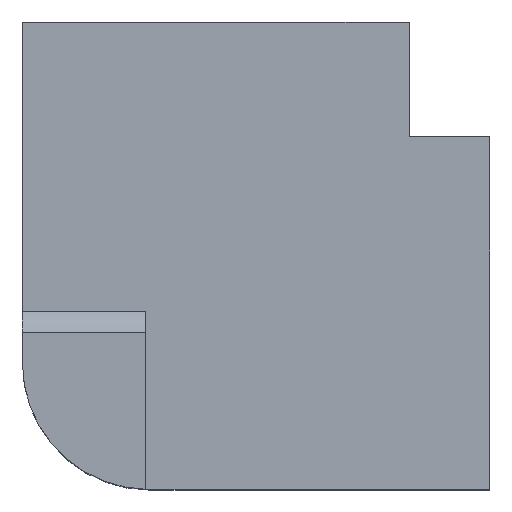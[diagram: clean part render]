
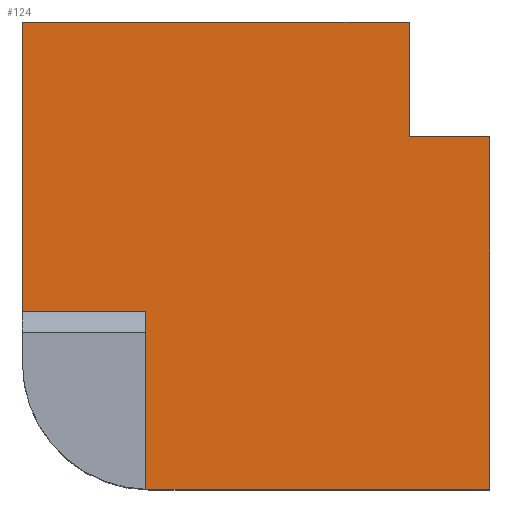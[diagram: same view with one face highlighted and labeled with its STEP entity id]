
A CAD part, top view. The second image highlights one B-rep face of the part: STEP entity #124.
In plain terms, the highlighted planar face has unit normal (0, 0, 1).
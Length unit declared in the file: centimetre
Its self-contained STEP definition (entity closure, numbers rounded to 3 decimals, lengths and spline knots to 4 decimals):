
#3 = ORIENTED_EDGE ( 'NONE', *, *, #318, .F. ) ;
#15 = DIRECTION ( 'NONE',  ( 0., -1., 0. ) ) ;
#18 = EDGE_CURVE ( 'NONE', #844, #63, #555, .T. ) ;
#21 = DIRECTION ( 'NONE',  ( 0., 1., 0. ) ) ;
#23 = EDGE_CURVE ( 'NONE', #63, #208, #550, .T. ) ;
#27 = CARTESIAN_POINT ( 'NONE',  ( 0., 381.245, 1000. ) ) ;
#63 = VERTEX_POINT ( 'NONE', #689 ) ;
#73 = VERTEX_POINT ( 'NONE', #846 ) ;
#76 = EDGE_CURVE ( 'NONE', #150, #641, #766, .T. ) ;
#81 = CARTESIAN_POINT ( 'NONE',  ( 0., 0., 1000. ) ) ;
#85 = ORIENTED_EDGE ( 'NONE', *, *, #76, .T. ) ;
#89 = EDGE_CURVE ( 'NONE', #641, #426, #761, .T. ) ;
#96 = LINE ( 'NONE', #388, #956 ) ;
#97 = DIRECTION ( 'NONE',  ( 0., 0., 1. ) ) ;
#101 = CARTESIAN_POINT ( 'NONE',  ( 1000., 1000., 1000. ) ) ;
#110 = CARTESIAN_POINT ( 'NONE',  ( 0., 0., 1000. ) ) ;
#117 = EDGE_CURVE ( 'NONE', #243, #150, #161, .T. ) ;
#122 = CARTESIAN_POINT ( 'NONE',  ( 827.7422, 754.0329, 1000. ) ) ;
#124 = ADVANCED_FACE ( 'NONE', ( #843 ), #175, .T. ) ;
#146 = VECTOR ( 'NONE', #723, 100. ) ;
#147 = CARTESIAN_POINT ( 'NONE',  ( 827.7422, 754.0329, 1000. ) ) ;
#148 = ORIENTED_EDGE ( 'NONE', *, *, #89, .T. ) ;
#150 = VERTEX_POINT ( 'NONE', #911 ) ;
#158 = DIRECTION ( 'NONE',  ( -1., 0., 0. ) ) ;
#161 = CIRCLE ( 'NONE', #430, 270.864 ) ;
#175 = PLANE ( 'NONE',  #930 ) ;
#179 = DIRECTION ( 'NONE',  ( 1., 0., 0. ) ) ;
#207 = CARTESIAN_POINT ( 'NONE',  ( 1000., 754.0329, 1000. ) ) ;
#208 = VERTEX_POINT ( 'NONE', #412 ) ;
#209 = VECTOR ( 'NONE', #179, 100. ) ;
#218 = CARTESIAN_POINT ( 'NONE',  ( 264.0625, 381.245, 1000. ) ) ;
#224 = CARTESIAN_POINT ( 'NONE',  ( 0., 1000., 1000. ) ) ;
#225 = ORIENTED_EDGE ( 'NONE', *, *, #576, .F. ) ;
#243 = VERTEX_POINT ( 'NONE', #650 ) ;
#246 = CARTESIAN_POINT ( 'NONE',  ( 0., 1000., 1000. ) ) ;
#277 = CARTESIAN_POINT ( 'NONE',  ( 1000., 0., 1000. ) ) ;
#311 = LINE ( 'NONE', #27, #660 ) ;
#312 = DIRECTION ( 'NONE',  ( 1., 0., 0. ) ) ;
#316 = VECTOR ( 'NONE', #510, 100. ) ;
#318 = EDGE_CURVE ( 'NONE', #844, #789, #96, .T. ) ;
#325 = DIRECTION ( 'NONE',  ( 1., 0., 0. ) ) ;
#388 = CARTESIAN_POINT ( 'NONE',  ( 827.7422, 754.0329, 1000. ) ) ;
#395 = DIRECTION ( 'NONE',  ( 0., 0., 1. ) ) ;
#412 = CARTESIAN_POINT ( 'NONE',  ( 0., 381.245, 1000. ) ) ;
#426 = VERTEX_POINT ( 'NONE', #207 ) ;
#430 = AXIS2_PLACEMENT_3D ( 'NONE', #738, #97, #312 ) ;
#434 = DIRECTION ( 'NONE',  ( 1., 0., 0. ) ) ;
#510 = DIRECTION ( 'NONE',  ( 0., -1., 0. ) ) ;
#541 = CARTESIAN_POINT ( 'NONE',  ( 827.7422, 1000., 1000. ) ) ;
#550 = LINE ( 'NONE', #224, #146 ) ;
#555 = LINE ( 'NONE', #246, #584 ) ;
#562 = EDGE_CURVE ( 'NONE', #73, #243, #591, .T. ) ;
#565 = VECTOR ( 'NONE', #21, 100. ) ;
#574 = VECTOR ( 'NONE', #434, 100. ) ;
#576 = EDGE_CURVE ( 'NONE', #789, #426, #808, .T. ) ;
#584 = VECTOR ( 'NONE', #158, 100. ) ;
#591 = LINE ( 'NONE', #218, #316 ) ;
#610 = ORIENTED_EDGE ( 'NONE', *, *, #562, .T. ) ;
#623 = EDGE_LOOP ( 'NONE', ( #3, #658, #670, #727, #610, #713, #85, #148, #225 ) ) ;
#641 = VERTEX_POINT ( 'NONE', #277 ) ;
#650 = CARTESIAN_POINT ( 'NONE',  ( 264.0625, 0.0854, 1000. ) ) ;
#658 = ORIENTED_EDGE ( 'NONE', *, *, #18, .T. ) ;
#660 = VECTOR ( 'NONE', #859, 100. ) ;
#670 = ORIENTED_EDGE ( 'NONE', *, *, #23, .T. ) ;
#689 = CARTESIAN_POINT ( 'NONE',  ( 0., 1000., 1000. ) ) ;
#713 = ORIENTED_EDGE ( 'NONE', *, *, #117, .T. ) ;
#723 = DIRECTION ( 'NONE',  ( 0., -1., 0. ) ) ;
#727 = ORIENTED_EDGE ( 'NONE', *, *, #799, .F. ) ;
#738 = CARTESIAN_POINT ( 'NONE',  ( 270.864, 270.864, 1000. ) ) ;
#761 = LINE ( 'NONE', #101, #565 ) ;
#766 = LINE ( 'NONE', #81, #209 ) ;
#789 = VERTEX_POINT ( 'NONE', #122 ) ;
#799 = EDGE_CURVE ( 'NONE', #73, #208, #311, .T. ) ;
#808 = LINE ( 'NONE', #147, #574 ) ;
#843 = FACE_OUTER_BOUND ( 'NONE', #623, .T. ) ;
#844 = VERTEX_POINT ( 'NONE', #541 ) ;
#846 = CARTESIAN_POINT ( 'NONE',  ( 264.0625, 381.245, 1000. ) ) ;
#859 = DIRECTION ( 'NONE',  ( -1., 0., 0. ) ) ;
#911 = CARTESIAN_POINT ( 'NONE',  ( 270.864, 0., 1000. ) ) ;
#930 = AXIS2_PLACEMENT_3D ( 'NONE', #110, #395, #325 ) ;
#956 = VECTOR ( 'NONE', #15, 100. ) ;
